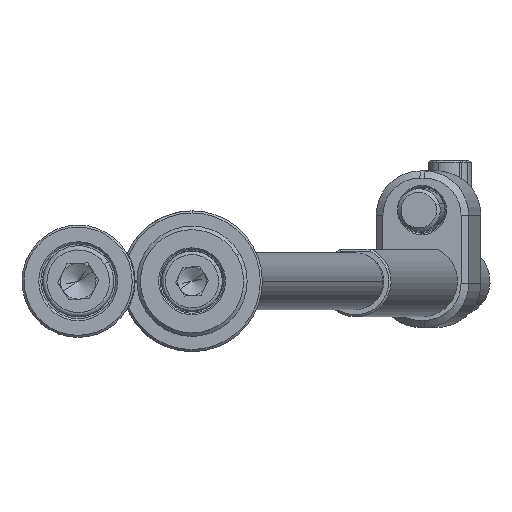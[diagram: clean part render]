
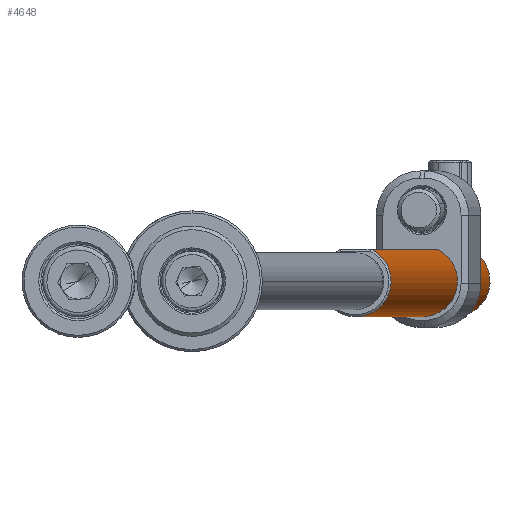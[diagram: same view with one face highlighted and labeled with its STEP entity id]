
A CAD part, front view. The second image highlights one B-rep face of the part: STEP entity #4648.
In plain terms, the highlighted cylindrical face has radius 5 mm (diameter 10 mm), a partial arc.
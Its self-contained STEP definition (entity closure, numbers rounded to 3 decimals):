
#664 = ORIENTED_EDGE ( 'NONE', *, *, #2921, .F. ) ;
#675 = CARTESIAN_POINT ( 'NONE',  ( 4.438, -2.308, 8.074 ) ) ;
#837 = CARTESIAN_POINT ( 'NONE',  ( 0., 0., 0.3 ) ) ;
#931 = CARTESIAN_POINT ( 'NONE',  ( 4.5, -2.179, 0.3 ) ) ;
#1686 = DIRECTION ( 'NONE',  ( 0., 0., -1. ) ) ;
#1695 = EDGE_CURVE ( 'NONE', #12589, #3905, #3322, .T. ) ;
#1847 = DIRECTION ( 'NONE',  ( 1., 0., 0. ) ) ;
#2172 = CARTESIAN_POINT ( 'NONE',  ( -5., 0., 0.3 ) ) ;
#2308 = DIRECTION ( 'NONE',  ( -1., 0., 0. ) ) ;
#2619 = CARTESIAN_POINT ( 'NONE',  ( 4.069, -2.906, 10.771 ) ) ;
#2771 = CARTESIAN_POINT ( 'NONE',  ( 4.5, -2.179, 12.062 ) ) ;
#2839 = AXIS2_PLACEMENT_3D ( 'NONE', #12765, #9233, #1847 ) ;
#2921 = EDGE_CURVE ( 'NONE', #3905, #5757, #9292, .T. ) ;
#3322 = B_SPLINE_CURVE_WITH_KNOTS ( 'NONE', 3,
 ( #2771, #11653, #11579, #4909, #7064, #7126, #2619, #9216, #8349, #5123, #13601, #12744, #12605, #13819, #11506, #3851, #675, #9508 ),
 .UNSPECIFIED., .F., .F.,
 ( 4, 2, 2, 2, 2, 2, 2, 2, 4 ),
 ( 0., 0.001, 0.001, 0.002, 0.002, 0.003, 0.003, 0.004, 0.005 ),
 .UNSPECIFIED. ) ;
#3436 = LINE ( 'NONE', #4784, #12540 ) ;
#3493 = DIRECTION ( 'NONE',  ( 0., 0., -1. ) ) ;
#3851 = CARTESIAN_POINT ( 'NONE',  ( 4.376, -2.422, 8.22 ) ) ;
#3905 = VERTEX_POINT ( 'NONE', #8140 ) ;
#4469 = VECTOR ( 'NONE', #6596, 1000. ) ;
#4648 = ADVANCED_FACE ( 'NONE', ( #5597 ), #6806, .T. ) ;
#4726 = AXIS2_PLACEMENT_3D ( 'NONE', #9973, #8697, #2308 ) ;
#4784 = CARTESIAN_POINT ( 'NONE',  ( -5., 0., 200. ) ) ;
#4842 = CARTESIAN_POINT ( 'NONE',  ( 4.5, -2.179, 200. ) ) ;
#4909 = CARTESIAN_POINT ( 'NONE',  ( 4.259, -2.621, 11.47 ) ) ;
#5123 = CARTESIAN_POINT ( 'NONE',  ( 4., -3., 9.809 ) ) ;
#5394 = VERTEX_POINT ( 'NONE', #2172 ) ;
#5505 = VERTEX_POINT ( 'NONE', #11333 ) ;
#5597 = FACE_OUTER_BOUND ( 'NONE', #9152, .T. ) ;
#5757 = VERTEX_POINT ( 'NONE', #931 ) ;
#5798 = CIRCLE ( 'NONE', #2839, 5. ) ;
#6068 = DIRECTION ( 'NONE',  ( 1., 0., 0. ) ) ;
#6267 = LINE ( 'NONE', #7283, #4469 ) ;
#6596 = DIRECTION ( 'NONE',  ( 0., 0., -1. ) ) ;
#6806 = CYLINDRICAL_SURFACE ( 'NONE', #4726, 5. ) ;
#7064 = CARTESIAN_POINT ( 'NONE',  ( 4.203, -2.709, 11.303 ) ) ;
#7126 = CARTESIAN_POINT ( 'NONE',  ( 4.108, -2.851, 10.952 ) ) ;
#7283 = CARTESIAN_POINT ( 'NONE',  ( 4.5, -2.179, 200. ) ) ;
#7926 = VECTOR ( 'NONE', #1686, 1000. ) ;
#8128 = ORIENTED_EDGE ( 'NONE', *, *, #11160, .T. ) ;
#8140 = CARTESIAN_POINT ( 'NONE',  ( 4.5, -2.179, 7.938 ) ) ;
#8349 = CARTESIAN_POINT ( 'NONE',  ( 4., -3., 10.198 ) ) ;
#8697 = DIRECTION ( 'NONE',  ( 0., 0., -1. ) ) ;
#9152 = EDGE_LOOP ( 'NONE', ( #10628, #9462, #8128, #664, #12525, #9283 ) ) ;
#9216 = CARTESIAN_POINT ( 'NONE',  ( 4.015, -2.98, 10.396 ) ) ;
#9233 = DIRECTION ( 'NONE',  ( 0., 0., -1. ) ) ;
#9234 = AXIS2_PLACEMENT_3D ( 'NONE', #837, #10456, #6068 ) ;
#9283 = ORIENTED_EDGE ( 'NONE', *, *, #13614, .F. ) ;
#9292 = LINE ( 'NONE', #4842, #7926 ) ;
#9462 = ORIENTED_EDGE ( 'NONE', *, *, #10095, .T. ) ;
#9508 = CARTESIAN_POINT ( 'NONE',  ( 4.5, -2.179, 7.938 ) ) ;
#9973 = CARTESIAN_POINT ( 'NONE',  ( 0., 0., 200. ) ) ;
#10095 = EDGE_CURVE ( 'NONE', #13121, #5394, #3436, .T. ) ;
#10456 = DIRECTION ( 'NONE',  ( 0., 0., 1. ) ) ;
#10628 = ORIENTED_EDGE ( 'NONE', *, *, #11222, .T. ) ;
#11160 = EDGE_CURVE ( 'NONE', #5394, #5757, #14054, .T. ) ;
#11222 = EDGE_CURVE ( 'NONE', #5505, #13121, #5798, .T. ) ;
#11333 = CARTESIAN_POINT ( 'NONE',  ( 4.5, -2.179, 199.7 ) ) ;
#11506 = CARTESIAN_POINT ( 'NONE',  ( 4.258, -2.623, 8.532 ) ) ;
#11579 = CARTESIAN_POINT ( 'NONE',  ( 4.376, -2.421, 11.781 ) ) ;
#11653 = CARTESIAN_POINT ( 'NONE',  ( 4.438, -2.307, 11.926 ) ) ;
#12525 = ORIENTED_EDGE ( 'NONE', *, *, #1695, .F. ) ;
#12540 = VECTOR ( 'NONE', #3493, 1000. ) ;
#12589 = VERTEX_POINT ( 'NONE', #14166 ) ;
#12605 = CARTESIAN_POINT ( 'NONE',  ( 4.107, -2.852, 9.051 ) ) ;
#12744 = CARTESIAN_POINT ( 'NONE',  ( 4.068, -2.908, 9.236 ) ) ;
#12765 = CARTESIAN_POINT ( 'NONE',  ( 0., 0., 199.7 ) ) ;
#13111 = CARTESIAN_POINT ( 'NONE',  ( -5., 0., 199.7 ) ) ;
#13121 = VERTEX_POINT ( 'NONE', #13111 ) ;
#13601 = CARTESIAN_POINT ( 'NONE',  ( 4.014, -2.982, 9.617 ) ) ;
#13614 = EDGE_CURVE ( 'NONE', #5505, #12589, #6267, .T. ) ;
#13819 = CARTESIAN_POINT ( 'NONE',  ( 4.202, -2.711, 8.701 ) ) ;
#14054 = CIRCLE ( 'NONE', #9234, 5. ) ;
#14166 = CARTESIAN_POINT ( 'NONE',  ( 4.5, -2.179, 12.062 ) ) ;
